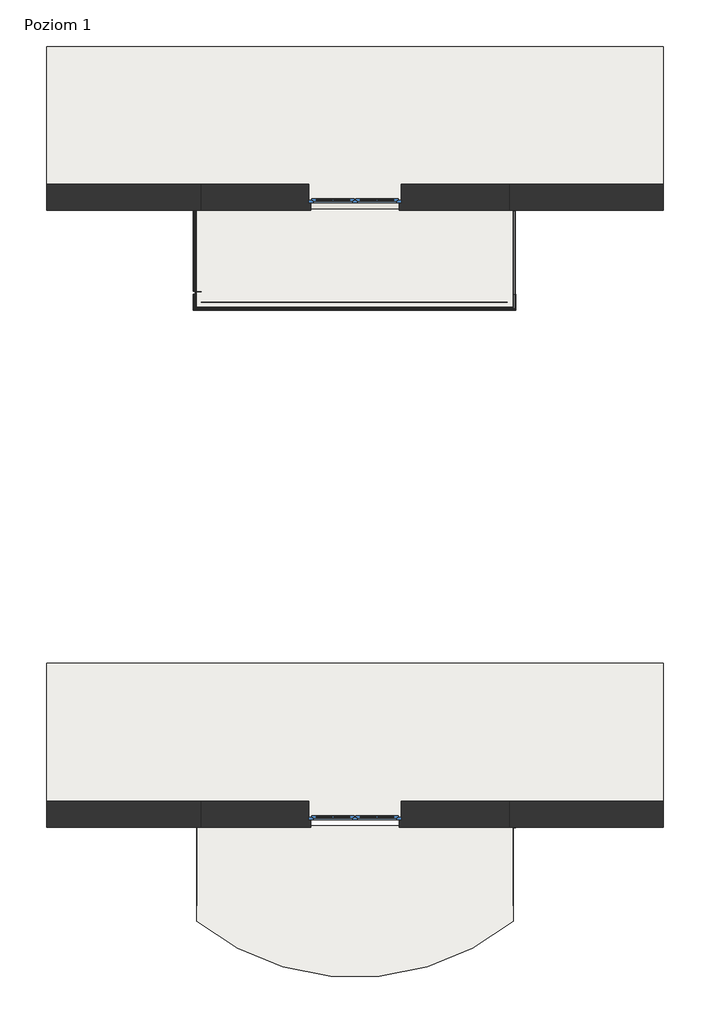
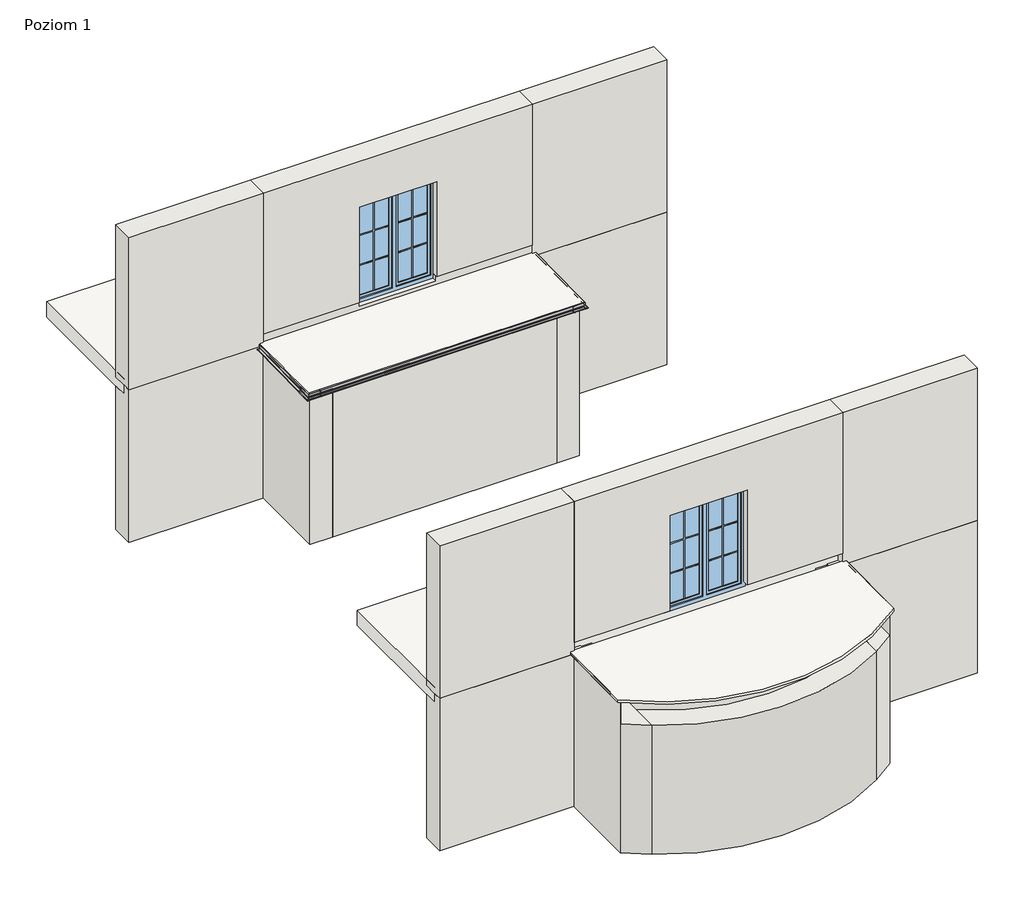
# One storey, part 1 of 4: 19 walls, 15 proxies, 4 slabs, 2 windows.
"""IFC4 building model written with IfcOpenShell, lengths in millimetres."""

from ifc_helpers import new_model, si_unit, point, frame, frame_2d, origin, place, context, project, spatial, polyline, circle_curve, ellipse_curve, trimmed, segment, composite_curve, outline, extrude, faceted_brep, transform, mapped, element, save
from ifc_brep_helpers import plane_surface, cylinder_surface, advanced_brep
from components import generic_models_8ea34007, generic_models_704fdf56, generic_models_deb29742, generic_models_228bb337, rynna_alu_r50_rynna_alu_r50_76c79ff7, rynna_alu_r50_rynna_alu_r50_4e946e94, rynna_alu_r50_rynna_alu_r50_be74cc9b, w35_59df81f5, w35_e51c26d3, w35_89e77db3, w35_c7dd2676, w35_d833f82c, w35_098470a9, window_150x200_12b14935

model = new_model("IFC4")

# Units and contexts
model_context = context("Model", 3, world=origin())
ifc_project = project(units=[si_unit("LENGTHUNIT", "METRE", prefix="MILLI")], contexts=[model_context])

# Site, building, storey
site = spatial("IfcSite", under=ifc_project)
building = spatial("IfcBuilding", under=site)
storey = spatial("IfcBuildingStorey", under=building, Name="Poziom 1", Elevation=0.0)

# Proxies
placement = place(None, origin())
generic_models_shape = generic_models_8ea34007(model_context)
element("IfcBuildingElementProxy", 1, Name="Odbojnik przyścienny rynny : Odbojnik przyścienny rynny", ObjectType="Odbojnik przyścienny rynny : Odbojnik przyścienny rynny", at=placement, inside=storey, context=model_context, shape_type="MappedRepresentation", body=[
    mapped(generic_models_shape, transform((-100550.4815287, 45258.8594514, -147.8273935), x_axis=(0.0, 0.9998161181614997, 0.019176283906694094), y_axis=(-1.0000000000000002, 0.0, 0.0), z_axis=(0.0, -0.01917628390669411, 0.9998161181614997))),
])
element("IfcBuildingElementProxy", 2, Name="Odbojnik przyścienny rynny : Odbojnik przyścienny rynny", ObjectType="Odbojnik przyścienny rynny : Odbojnik przyścienny rynny", at=placement, inside=storey, context=model_context, shape_type="MappedRepresentation", body=[
    mapped(generic_models_shape, transform((-100550.1150554, 35255.9720632, -147.6558285), x_axis=(0.0011898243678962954, 0.9999301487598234, 0.011759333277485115), y_axis=(-0.9999992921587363, 0.0011897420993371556, 1.3991551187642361e-05), z_axis=(0.0, -0.011759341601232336, 0.9999308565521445))),
])
generic_models_2_shape = generic_models_704fdf56(model_context)
element("IfcBuildingElementProxy", 3, Name="Odbojnik przyścienny rynny : Odbojnik przyścienny rynny", ObjectType="Odbojnik przyścienny rynny : Odbojnik przyścienny rynny", at=placement, inside=storey, context=model_context, shape_type="MappedRepresentation", body=[
    mapped(generic_models_2_shape, transform((-105778.4608602, 45248.5025712, -148.0260365), x_axis=(0.0, 0.9998161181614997, 0.019176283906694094), y_axis=(-1.0000000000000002, 0.0, 0.0), z_axis=(0.0, -0.01917628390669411, 0.9998161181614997))),
])
generic_models_3_shape = generic_models_deb29742(model_context)
element("IfcBuildingElementProxy", 4, Name="Odbojniki - OPW35 : Odbojniki - OPW35", ObjectType="Odbojniki - OPW35 : Odbojniki - OPW35", at=placement, inside=storey, context=model_context, shape_type="MappedRepresentation", body=[
    mapped(generic_models_3_shape, transform((-100588.8606794, 45254.1964754, -113.2994029), x_axis=(0.0, -0.9998161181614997, -0.019176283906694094), y_axis=(1.0000000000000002, 0.0, 0.0), z_axis=(0.0, -0.01917628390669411, 0.9998161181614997))),
])
generic_models_4_shape = generic_models_228bb337(model_context)
element("IfcBuildingElementProxy", 5, Name="Odbojniki - OPW35 : Odbojniki - OPW35", ObjectType="Odbojniki - OPW35 : Odbojniki - OPW35", at=placement, inside=storey, context=model_context, shape_type="MappedRepresentation", body=[
    mapped(generic_models_4_shape, transform((-105718.729554, 35251.5521138, -113.0943544), x_axis=(-0.00024381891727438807, -0.9999308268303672, -0.011759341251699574), y_axis=(0.9999999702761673, -0.0002438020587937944, -2.8671499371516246e-06), z_axis=(0.0, -0.011759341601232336, 0.9999308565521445))),
])
element("IfcBuildingElementProxy", 6, Name="Odbojniki - OPW35 : Odbojniki - OPW35", ObjectType="Odbojniki - OPW35 : Odbojniki - OPW35", at=placement, inside=storey, context=model_context, shape_type="MappedRepresentation", body=[
    mapped(generic_models_4_shape, transform((-105740.0817096, 45243.8395953, -113.4980459), x_axis=(0.0, -0.9998161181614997, -0.019176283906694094), y_axis=(1.0000000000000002, 0.0, 0.0), z_axis=(0.0, -0.01917628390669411, 0.9998161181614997))),
])
rynna_alu_r50_rynna_alu_r50_shape = rynna_alu_r50_rynna_alu_r50_76c79ff7(model_context)
element("IfcBuildingElementProxy", 7, Name="Rynna ALU R50 : Rynna ALU R50", ObjectType="Rynna ALU R50 : Rynna ALU R50", at=placement, inside=storey, context=model_context, shape_type="MappedRepresentation", body=[
    mapped(rynna_alu_r50_rynna_alu_r50_shape, transform((-103163.8196871, 43695.2685485, -135.6789481), x_axis=(1.0, 0.0, 0.0), y_axis=(0.0, 0.9998161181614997, 0.01917628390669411), z_axis=(0.0, -0.01917628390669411, 0.9998161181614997))),
])
rynna_alu_r50_rynna_alu_r50_2_shape = rynna_alu_r50_rynna_alu_r50_4e946e94(model_context)
element("IfcBuildingElementProxy", 8, Name="Rynna ALU R50 : Rynna ALU R50", ObjectType="Rynna ALU R50 : Rynna ALU R50", at=placement, inside=storey, context=model_context, shape_type="MappedRepresentation", body=[
    mapped(rynna_alu_r50_rynna_alu_r50_2_shape, transform((-100606.0642979, 44578.9401591, -118.7302939), x_axis=(0.0, 0.9998161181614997, 0.019176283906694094), y_axis=(-1.0000000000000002, 0.0, 0.0), z_axis=(0.0, -0.01917628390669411, 0.9998161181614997))),
])
rynna_alu_r50_rynna_alu_r50_3_shape = rynna_alu_r50_rynna_alu_r50_be74cc9b(model_context)
element("IfcBuildingElementProxy", 9, Name="Rynna ALU R50 : Rynna ALU R50", ObjectType="Rynna ALU R50 : Rynna ALU R50", at=placement, inside=storey, context=model_context, shape_type="MappedRepresentation", body=[
    mapped(rynna_alu_r50_rynna_alu_r50_3_shape, transform((-105722.878091, 44596.6144168, -118.3913049), x_axis=(0.0, 0.9998161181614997, 0.019176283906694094), y_axis=(-1.0000000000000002, 0.0, 0.0), z_axis=(0.0, -0.01917628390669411, 0.9998161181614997))),
])
w35_shape = w35_59df81f5(model_context)
element("IfcBuildingElementProxy", 10, Name="W35 Profil okapowy prosty z rynną : W35", ObjectType="W35 Profil okapowy prosty z rynną : W35", at=placement, inside=storey, context=model_context, shape_type="MappedRepresentation", body=[
    mapped(w35_shape, transform((-105717.2365026, 43700.2483344, -92.9716012), x_axis=(1.0, 0.0, 0.0), y_axis=(0.0, 0.9998161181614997, 0.01917628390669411), z_axis=(0.0, -0.01917628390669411, 0.9998161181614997))),
])
w35_2_shape = w35_e51c26d3(model_context)
element("IfcBuildingElementProxy", 11, Name="W35 Profil okapowy prosty z rynną : W35", ObjectType="W35 Profil okapowy prosty z rynną : W35", at=placement, inside=storey, context=model_context, shape_type="MappedRepresentation", body=[
    mapped(w35_2_shape, transform((-100611.8621363, 43900.211558, -89.1363444), x_axis=(0.0, 0.9998161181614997, 0.019176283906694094), y_axis=(-1.0000000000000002, 0.0, 0.0), z_axis=(0.0, -0.01917628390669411, 0.9998161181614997))),
])
w35_3_shape = w35_89e77db3(model_context)
element("IfcBuildingElementProxy", 12, Name="W35 Profil okapowy prosty z rynną : W35", ObjectType="W35 Profil okapowy prosty z rynną : W35", at=placement, inside=storey, context=model_context, shape_type="MappedRepresentation", body=[
    mapped(w35_3_shape, transform((-105717.0802526, 43945.9169536, -88.2597236), x_axis=(0.0, 0.9998161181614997, 0.019176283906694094), y_axis=(-1.0000000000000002, 0.0, 0.0), z_axis=(0.0, -0.01917628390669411, 0.9998161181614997))),
])
w35_4_shape = w35_c7dd2676(model_context)
element("IfcBuildingElementProxy", 13, Name="W35 Profil okapowy prosty z rynną : W35", ObjectType="W35 Profil okapowy prosty z rynną : W35", at=placement, inside=storey, context=model_context, shape_type="MappedRepresentation", body=[
    mapped(w35_4_shape, transform((-100613.0027161, 33988.4824493, -77.8217687), x_axis=(0.0011898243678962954, 0.9999301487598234, 0.011759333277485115), y_axis=(-0.9999992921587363, 0.0011897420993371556, 1.3991551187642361e-05), z_axis=(0.0, -0.011759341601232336, 0.9999308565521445))),
])
w35_5_shape = w35_d833f82c(model_context)
element("IfcBuildingElementProxy", 14, Name="W35 Profil okapowy prosty z rynną : W35", ObjectType="W35 Profil okapowy prosty z rynną : W35", at=placement, inside=storey, context=model_context, shape_type="MappedRepresentation", body=[
    mapped(w35_5_shape, transform((-105696.0359557, 33988.3943411, -77.8228048), x_axis=(0.00024381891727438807, 0.9999308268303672, 0.011759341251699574), y_axis=(-0.9999999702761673, 0.0002438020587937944, 2.8671499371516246e-06), z_axis=(0.0, -0.011759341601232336, 0.9999308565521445))),
])
w35_6_shape = w35_098470a9(model_context)
element("IfcBuildingElementProxy", 15, Name="W35 Profil okapowy prosty z rynną : W35", ObjectType="W35 Profil okapowy prosty z rynną : W35", at=placement, inside=storey, context=model_context, shape_type="MappedRepresentation", body=[
    mapped(w35_6_shape, transform((-105717.0802526, 43900.2115548, -89.1361788), x_axis=(0.0, 0.9998161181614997, 0.019176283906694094), y_axis=(-1.0000000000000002, 0.0, 0.0), z_axis=(0.0, -0.01917628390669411, 0.9998161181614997))),
])

# Slabs
element("IfcSlab", 16, ObjectType="Taras - wykończenie - posadzka z płytek grubowarstwowych - podkładka P1 - hydroizolacja", at=placement, inside=storey, context=model_context, shape_type="SweptSolid", body=[
    extrude(outline(polyline([(43700.2483344, -145.9716012), (43700.2483344, -92.9716012), (45285.2483344, -62.5716012), (45285.2483344, -115.5716012), (43700.2483344, -145.9716012)])), frame((-105717.2365026, 0.0, 0.0), z_axis=(1.0, 0.0, 0.0), x_axis=(0.0, 1.0, 0.0)), (0.0, 0.0, 1.0), 5126.0),
])
element("IfcSlab", 17, ObjectType="Taras - wykończenie - posadzka z płytek grubowarstwowych - podkładka P1 - hydroizolacja", at=placement, inside=storey, context=model_context, shape_type="AdvancedBrep", body=[
    advanced_brep(
    [(-105717.2365026, 35285.2483344, -62.5716012), (-105717.2365026, 35285.2483344, -115.5716012), (-105717.2365026, 33739.5758506, -133.7489488), (-105717.2365026, 33739.5758506, -80.7489488), (-100591.2365026, 35285.2483344, -62.5716012), (-100591.2365026, 35285.2483344, -115.5716012), (-100591.2365026, 33739.5758506, -80.7489488), (-100591.2365026, 33739.5758506, -133.7489488)],
    [
        (0, 1),
        (1, 2),
        (2, 3),
        (3, 0),
        (0, 4),
        (4, 5),
        (5, 1),
        (4, 6),
        (6, 7),
        (7, 5),
        (3, 6, ellipse_curve(frame((-103154.2365026, 36885.7473336, -43.7494853), z_axis=(0.0, -0.011759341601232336, 0.9999308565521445), x_axis=(0.0, -0.9999308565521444, -0.011759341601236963)), 4058.2806035, 4058.0)),
        (7, 2, ellipse_curve(frame((-103154.2365026, 36885.7473336, -96.7494853), z_axis=(0.0, 0.011759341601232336, -0.9999308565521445), x_axis=(0.0, -0.9999308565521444, -0.011759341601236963)), 4058.2806035, 4058.0)),
    ],
    [
        plane_surface(frame((-105717.2365026, 32700.2483344, -145.9716012), z_axis=(-1.0, 0.0, 0.0), x_axis=(0.0, 0.0, 1.0))),
        plane_surface(frame((-105717.2365026, 35285.2483344, -145.9716012), z_axis=(0.0, 1.0, 0.0), x_axis=(0.0, 0.0, 1.0))),
        plane_surface(frame((-100591.2365026, 35285.2483344, -145.9716012), z_axis=(1.0, 0.0, 0.0), x_axis=(0.0, 0.0, 1.0))),
        plane_surface(frame((-103154.2365026, 33992.7483344, -77.7716012), z_axis=(0.0, -0.011759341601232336, 0.9999308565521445), x_axis=(0.0, 0.9999308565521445, 0.011759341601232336))),
        plane_surface(frame((-103154.2365026, 33992.7483344, -130.7716012), z_axis=(0.0, 0.011759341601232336, -0.9999308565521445), x_axis=(0.0, 0.9999308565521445, 0.011759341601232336))),
        cylinder_surface(frame((-103154.2365026, 36885.7473336, -450.7716012), z_axis=(0.0, 0.0, -1.0), x_axis=(1.0, 0.0, 0.0)), 4058.0),
    ],
    [
        (0, [[1, 2, 3, 4]]),
        (1, [[-1, 5, 6, 7]]),
        (2, [[-6, 8, 9, 10]]),
        (3, [[-5, -4, 11, -8]]),
        (4, [[-7, -10, 12, -2]]),
        (5, [[-3, -12, -9, -11]]),
    ],
),
])
element("IfcSlab", 18, ObjectType="Strop", at=placement, inside=storey, context=model_context, shape_type="Brep", body=[
    faceted_brep([(-98154.2365026, 45418.2483344, -300.0), (-100649.2365026, 45418.2483344, -300.0), (-101069.2365026, 45418.2483344, -300.0), (-105239.2365026, 45418.2483344, -300.0), (-108154.2365026, 45418.2483344, -300.0), (-108154.2365026, 45683.2483344, -300.0), (-108154.2365026, 47918.2483344, -300.0), (-98154.2365026, 47918.2483344, -300.0), (-98154.2365026, 45683.2483344, -300.0), (-98154.2365026, 45418.2483344, 0.0), (-98154.2365026, 47918.2483344, 0.0), (-108154.2365026, 47918.2483344, 0.0), (-108154.2365026, 45418.2483344, 0.0), (-105654.2365026, 45418.2483344, 0.0), (-103904.2365026, 45418.2483344, 0.0), (-102404.2365026, 45418.2483344, 0.0), (-100654.2365026, 45418.2483344, 0.0), (-98154.2365026, 45418.2483344, -125.0), (-108154.2365026, 45418.2483344, -125.0)], [[[0, 1, 2, 3, 4, 5, 6, 7, 8]], [[9, 10, 11, 12, 13, 14, 15, 16]], [[4, 3, 2, 1, 0, 17, 9, 16, 15, 14, 13, 12, 18]], [[6, 5, 4, 18, 12, 11]], [[7, 6, 11, 10]], [[0, 8, 7, 10, 9, 17]]]),
])
element("IfcSlab", 19, ObjectType="Strop", at=placement, inside=storey, context=model_context, shape_type="Brep", body=[
    faceted_brep([(-98154.2365026, 35418.2483344, -300.0), (-100649.2365026, 35418.2483344, -300.0), (-101069.2365026, 35418.2483344, -300.0), (-105239.2365026, 35418.2483344, -300.0), (-108154.2365026, 35418.2483344, -300.0), (-108154.2365026, 35683.2483344, -300.0), (-108154.2365026, 37918.2483344, -300.0), (-98154.2365026, 37918.2483344, -300.0), (-98154.2365026, 35683.2483344, -300.0), (-98154.2365026, 35418.2483344, 0.0), (-98154.2365026, 37918.2483344, 0.0), (-108154.2365026, 37918.2483344, 0.0), (-108154.2365026, 35418.2483344, 0.0), (-105654.2365026, 35418.2483344, 0.0), (-103904.2365026, 35418.2483344, 0.0), (-102404.2365026, 35418.2483344, 0.0), (-100654.2365026, 35418.2483344, 0.0), (-98154.2365026, 35418.2483344, -125.0), (-108154.2365026, 35418.2483344, -125.0)], [[[0, 1, 2, 3, 4, 5, 6, 7, 8]], [[9, 10, 11, 12, 13, 14, 15, 16]], [[4, 3, 2, 1, 0, 17, 9, 16, 15, 14, 13, 12, 18]], [[6, 5, 4, 18, 12, 11]], [[7, 6, 11, 10]], [[0, 8, 7, 10, 9, 17]]]),
])

# Walls
element("IfcWall", 20, ObjectType="Porotherm P+W 25 + o15 + t", at=placement, inside=storey, context=model_context, shape_type="Brep", body=[
    faceted_brep([(-108154.2365026, 45263.2483344, -3125.0), (-105659.2365026, 45263.2483344, -3125.0), (-105239.2365026, 45263.2483344, -3125.0), (-105239.2365026, 45263.2483344, -147.509132), (-105449.2365026, 45263.2483344, -147.509132), (-105449.2365026, 45263.2483344, -125.0), (-105654.2365026, 45263.2483344, -125.0), (-108154.2365026, 45263.2483344, -125.0), (-105239.2365026, 45683.2483344, -3125.0), (-108154.2365026, 45683.2483344, -3125.0), (-108154.2365026, 45683.2483344, -300.0), (-105239.2365026, 45683.2483344, -300.0), (-105239.2365026, 45403.2483344, -3125.0), (-105449.2365026, 45403.2483344, -125.0), (-105449.2365026, 45418.2483344, -125.0), (-108154.2365026, 45418.2483344, -125.0), (-108154.2365026, 45418.2483344, -300.0), (-105239.2365026, 45418.2483344, -300.0), (-105449.2365026, 45418.2483344, -147.509132), (-105239.2365026, 45418.2483344, -147.509132), (-105449.2365026, 45403.2483344, -147.509132), (-105239.2365026, 45403.2483344, -147.509132)], [[[0, 1, 2, 3, 4, 5, 6, 7]], [[8, 9, 10, 11]], [[2, 1, 0, 9, 8, 12]], [[7, 6, 5, 13, 14, 15]], [[0, 7, 15, 16, 10, 9]], [[16, 17, 11, 10]], [[17, 16, 15, 14, 18, 19]], [[5, 4, 20, 18, 14, 13]], [[4, 3, 21, 19, 18, 20]], [[3, 2, 12, 8, 11, 17, 19, 21]]]),
])
element("IfcWall", 21, ObjectType="Porotherm P+W 25 + o15 + t", at=placement, inside=storey, context=model_context, shape_type="Brep", body=[
    faceted_brep([(-105659.2365026, 45263.2483344, -3125.0), (-105659.2365026, 43758.2483344, -3125.0), (-105659.2365026, 43758.2483344, -147.509132), (-105659.2365026, 45263.2483344, -147.509132), (-105239.2365026, 45263.2483344, -3125.0), (-105239.2365026, 45263.2483344, -147.509132), (-105239.2365026, 44178.2483344, -147.509132), (-105239.2365026, 43758.2483344, -147.509132), (-105239.2365026, 43758.2483344, -3125.0), (-105239.2365026, 44178.2483344, -3125.0), (-105449.2365026, 45263.2483344, -147.509132)], [[[0, 1, 2, 3]], [[4, 5, 6, 7, 8, 9]], [[1, 0, 4, 9, 8]], [[3, 2, 7, 6, 5, 10]], [[2, 1, 8, 7]], [[0, 3, 10, 5, 4]]]),
])
element("IfcWall", 22, ObjectType="Porotherm P+W 25 + o15 + t", at=placement, inside=storey, context=model_context, shape_type="SweptSolid", body=[
    extrude(outline(polyline([(-101069.2365026, 43758.2483344), (-105239.2365026, 43758.2483344), (-105239.2365026, 44178.2483344), (-101069.2365026, 44178.2483344), (-101069.2365026, 43758.2483344)])), frame((0.0, 0.0, -3125.0), z_axis=(0.0, 0.0, 1.0), x_axis=(1.0, 0.0, 0.0)), (0.0, 0.0, 1.0), 2977.490868),
])
element("IfcWall", 23, ObjectType="Porotherm P+W 25 + o15 + t", at=placement, inside=storey, context=model_context, shape_type="Brep", body=[
    faceted_brep([(-100649.2365026, 43758.2483344, -3125.0), (-100649.2365026, 45263.2483344, -3125.0), (-100649.2365026, 45683.2483344, -3125.0), (-100649.2365026, 45683.2483344, -300.0), (-100649.2365026, 45683.2483344, -147.509132), (-100649.2365026, 45418.2483344, -147.509132), (-100649.2365026, 45263.2483344, -147.509132), (-100649.2365026, 43758.2483344, -147.509132), (-101069.2365026, 43758.2483344, -3125.0), (-101069.2365026, 43758.2483344, -147.509132), (-101069.2365026, 44178.2483344, -147.509132), (-101069.2365026, 45403.2483344, -147.509132), (-101069.2365026, 45418.2483344, -147.509132), (-101069.2365026, 45683.2483344, -147.509132), (-101069.2365026, 45683.2483344, -300.0), (-101069.2365026, 45683.2483344, -3125.0), (-101069.2365026, 45403.2483344, -3125.0), (-101069.2365026, 44178.2483344, -3125.0)], [[[0, 1, 2, 3, 4, 5, 6, 7]], [[8, 9, 10, 11, 12, 13, 14, 15, 16, 17]], [[2, 1, 0, 8, 17, 16, 15]], [[7, 6, 5, 4, 13, 12, 11, 10, 9]], [[0, 7, 9, 8]], [[4, 3, 2, 15, 14, 13]]]),
])
element("IfcWall", 24, ObjectType="Porotherm P+W 25 + o15 + t", at=placement, inside=storey, context=model_context, shape_type="Brep", body=[
    faceted_brep([(-100649.2365026, 45263.2483344, -3125.0), (-98154.2365026, 45263.2483344, -3125.0), (-98154.2365026, 45263.2483344, -125.0), (-100654.2365026, 45263.2483344, -125.0), (-100859.2365026, 45263.2483344, -125.0), (-100859.2365026, 45263.2483344, -147.509132), (-100649.2365026, 45263.2483344, -147.509132), (-98154.2365026, 45683.2483344, -3125.0), (-100649.2365026, 45683.2483344, -3125.0), (-100649.2365026, 45683.2483344, -300.0), (-98154.2365026, 45683.2483344, -300.0), (-98154.2365026, 45418.2483344, -300.0), (-98154.2365026, 45418.2483344, -125.0), (-100859.2365026, 45418.2483344, -125.0), (-100859.2365026, 45403.2483344, -125.0), (-100649.2365026, 45418.2483344, -300.0), (-100649.2365026, 45418.2483344, -147.509132), (-100859.2365026, 45418.2483344, -147.509132), (-100859.2365026, 45403.2483344, -147.509132)], [[[0, 1, 2, 3, 4, 5, 6]], [[7, 8, 9, 10]], [[1, 0, 8, 7]], [[2, 1, 7, 10, 11, 12]], [[4, 3, 2, 12, 13, 14]], [[15, 11, 10, 9]], [[11, 15, 16, 17, 13, 12]], [[5, 4, 14, 13, 17, 18]], [[6, 5, 18, 17, 16]], [[0, 6, 16, 15, 9, 8]]]),
])
element("IfcWall", 25, ObjectType="Porotherm P+W 25(wieniec 45) + t", at=placement, inside=storey, context=model_context, shape_type="Brep", body=[
    faceted_brep([(-105239.2365026, 45403.2483344, -3125.0), (-101069.2365026, 45403.2483344, -3125.0), (-101069.2365026, 45403.2483344, -147.509132), (-100859.2365026, 45403.2483344, -147.509132), (-100859.2365026, 45403.2483344, -125.0), (-105449.2365026, 45403.2483344, -125.0), (-105449.2365026, 45403.2483344, -147.509132), (-105239.2365026, 45403.2483344, -147.509132), (-101069.2365026, 45683.2483344, -3125.0), (-105239.2365026, 45683.2483344, -3125.0), (-105239.2365026, 45683.2483344, -300.0), (-101069.2365026, 45683.2483344, -300.0), (-100859.2365026, 45418.2483344, -125.0), (-105449.2365026, 45418.2483344, -125.0), (-105239.2365026, 45418.2483344, -300.0), (-101069.2365026, 45418.2483344, -300.0), (-105239.2365026, 45418.2483344, -147.509132), (-105449.2365026, 45418.2483344, -147.509132), (-100859.2365026, 45418.2483344, -147.509132), (-101069.2365026, 45418.2483344, -147.509132)], [[[0, 1, 2, 3, 4, 5, 6, 7]], [[8, 9, 10, 11]], [[1, 0, 9, 8]], [[5, 4, 12, 13]], [[14, 15, 11, 10]], [[15, 14, 16, 17, 13, 12, 18, 19]], [[6, 5, 13, 17]], [[7, 6, 17, 16]], [[0, 7, 16, 14, 10, 9]], [[4, 3, 18, 12]], [[3, 2, 19, 18]], [[2, 1, 8, 11, 15, 19]]]),
])
element("IfcWall", 26, ObjectType="Porotherm P+W 25 + o15 + t", at=placement, inside=storey, context=model_context, shape_type="Brep", body=[
    faceted_brep([(-108154.2365026, 45263.2483344, -125.0), (-105654.2365026, 45263.2483344, -125.0), (-105654.2365026, 45263.2483344, 100.0), (-105654.2365026, 45263.2483344, 2875.0), (-108154.2365026, 45263.2483344, 2875.0), (-108154.2365026, 45683.2483344, -125.0), (-108154.2365026, 45683.2483344, 2875.0), (-105654.2365026, 45683.2483344, 2875.0), (-105654.2365026, 45683.2483344, 100.0), (-105654.2365026, 45683.2483344, 0.0), (-105654.2365026, 45683.2483344, -125.0), (-108154.2365026, 45418.2483344, -125.0), (-105654.2365026, 45418.2483344, -125.0), (-105654.2365026, 45285.2483344, -125.0)], [[[0, 1, 2, 3, 4]], [[5, 6, 7, 8, 9, 10]], [[1, 0, 11, 5, 10, 12, 13]], [[4, 3, 7, 6]], [[0, 4, 6, 5, 11]], [[1, 13, 12, 10, 9, 8, 7, 3, 2]]]),
])
element("IfcWall", 27, ObjectType="Porotherm P+W 25 + o15 + t", at=placement, inside=storey, context=model_context, shape_type="Brep", body=[
    faceted_brep([(-100654.2365026, 45263.2483344, 2875.0), (-100654.2365026, 45263.2483344, 100.0), (-100654.2365026, 45263.2483344, -125.0), (-98154.2365026, 45263.2483344, -125.0), (-98154.2365026, 45263.2483344, 2875.0), (-100654.2365026, 45683.2483344, -125.0), (-100654.2365026, 45683.2483344, 0.0), (-100654.2365026, 45683.2483344, 100.0), (-100654.2365026, 45683.2483344, 2875.0), (-98154.2365026, 45683.2483344, 2875.0), (-98154.2365026, 45683.2483344, -125.0), (-100654.2365026, 45285.2483344, -125.0), (-100654.2365026, 45418.2483344, -125.0), (-98154.2365026, 45418.2483344, -125.0)], [[[0, 1, 2, 3, 4]], [[5, 6, 7, 8, 9, 10]], [[3, 2, 11, 12, 5, 10, 13]], [[4, 3, 13, 10, 9]], [[0, 4, 9, 8]], [[0, 8, 7, 6, 5, 12, 11, 2, 1]]]),
])
element("IfcWall", 28, ObjectType="Porotherm P+W 25 + o12 + pł ceramiczne", at=placement, inside=storey, context=model_context, shape_type="Brep", body=[
    faceted_brep([(-105654.2365026, 45285.2483344, -125.0), (-100654.2365026, 45285.2483344, -125.0), (-100654.2365026, 45285.2483344, 100.0), (-102434.2365026, 45285.2483344, 100.0), (-102434.2365026, 45285.2483344, 0.0), (-103874.2365026, 45285.2483344, 0.0), (-103874.2365026, 45285.2483344, 100.0), (-105654.2365026, 45285.2483344, 100.0), (-102404.2365026, 45683.2483344, 100.0), (-100654.2365026, 45683.2483344, 100.0), (-100654.2365026, 45683.2483344, 0.0), (-102404.2365026, 45683.2483344, 0.0), (-105654.2365026, 45683.2483344, 100.0), (-103904.2365026, 45683.2483344, 100.0), (-103904.2365026, 45683.2483344, 0.0), (-105654.2365026, 45683.2483344, 0.0), (-105654.2365026, 45418.2483344, -125.0), (-100654.2365026, 45418.2483344, -125.0), (-100654.2365026, 45418.2483344, 0.0), (-102404.2365026, 45383.2483344, 100.0), (-102434.2365026, 45383.2483344, 100.0), (-103874.2365026, 45383.2483344, 100.0), (-103904.2365026, 45383.2483344, 100.0), (-105654.2365026, 45418.2483344, 0.0), (-102404.2365026, 45418.2483344, 0.0), (-103904.2365026, 45418.2483344, 0.0), (-103904.2365026, 45383.2483344, 0.0), (-103874.2365026, 45383.2483344, 0.0), (-102434.2365026, 45383.2483344, 0.0), (-102404.2365026, 45383.2483344, 0.0)], [[[0, 1, 2, 3, 4, 5, 6, 7]], [[8, 9, 10, 11]], [[12, 13, 14, 15]], [[1, 0, 16, 17]], [[2, 1, 17, 18, 10, 9]], [[2, 9, 8, 19, 20, 3]], [[12, 7, 6, 21, 22, 13]], [[0, 7, 12, 15, 23, 16]], [[18, 24, 11, 10]], [[25, 23, 15, 14]], [[24, 18, 17, 16, 23, 25]], [[26, 27, 5, 4, 28, 29, 24, 25]], [[27, 26, 22, 21]], [[29, 28, 20, 19]], [[29, 19, 8, 11, 24]], [[22, 26, 25, 14, 13]], [[28, 4, 3, 20]], [[5, 27, 21, 6]]]),
])
element("IfcWall", 29, ObjectType="Porotherm P+W 25 + o15 + t", at=placement, inside=storey, context=model_context, shape_type="Brep", body=[
    faceted_brep([(-100654.2365026, 45263.2483344, 100.0), (-100654.2365026, 45263.2483344, 2875.0), (-105654.2365026, 45263.2483344, 2875.0), (-105654.2365026, 45263.2483344, 100.0), (-103874.2365026, 45263.2483344, 100.0), (-103874.2365026, 45263.2483344, 1970.0), (-102434.2365026, 45263.2483344, 1970.0), (-102434.2365026, 45263.2483344, 100.0), (-100654.2365026, 45683.2483344, 2875.0), (-100654.2365026, 45683.2483344, 100.0), (-102404.2365026, 45683.2483344, 100.0), (-102404.2365026, 45683.2483344, 2000.0), (-103904.2365026, 45683.2483344, 2000.0), (-103904.2365026, 45683.2483344, 100.0), (-105654.2365026, 45683.2483344, 100.0), (-105654.2365026, 45683.2483344, 2875.0), (-105654.2365026, 45285.2483344, 100.0), (-103904.2365026, 45383.2483344, 100.0), (-103874.2365026, 45383.2483344, 100.0), (-103874.2365026, 45285.2483344, 100.0), (-100654.2365026, 45285.2483344, 100.0), (-102434.2365026, 45285.2483344, 100.0), (-102434.2365026, 45383.2483344, 100.0), (-102404.2365026, 45383.2483344, 100.0), (-102404.2365026, 45383.2483344, 2000.0), (-102434.2365026, 45383.2483344, 1970.0), (-103904.2365026, 45383.2483344, 2000.0), (-103874.2365026, 45383.2483344, 1970.0)], [[[0, 1, 2, 3, 4, 5, 6, 7]], [[8, 9, 10, 11, 12, 13, 14, 15]], [[3, 16, 14, 13, 17, 18, 19, 4]], [[9, 20, 0, 7, 21, 22, 23, 10]], [[1, 0, 20, 9, 8]], [[2, 1, 8, 15]], [[3, 2, 15, 14, 16]], [[24, 11, 10, 23]], [[6, 25, 22, 21, 7]], [[26, 12, 11, 24]], [[26, 24, 23, 22, 25, 27, 18, 17]], [[12, 26, 17, 13]], [[27, 25, 6, 5]], [[27, 5, 4, 19, 18]]]),
])
element("IfcWall", 30, ObjectType="Porotherm P+W 25 + o15 + t", at=placement, inside=storey, context=model_context, shape_type="Brep", body=[
    faceted_brep([(-108154.2365026, 35263.2483344, -3125.0), (-105659.2365026, 35263.2483344, -3125.0), (-105239.2365026, 35263.2483344, -3125.0), (-105239.2365026, 35263.2483344, -590.0), (-105239.2365026, 35263.2483344, -147.509132), (-105449.2365026, 35263.2483344, -147.509132), (-105449.2365026, 35263.2483344, -125.0), (-105654.2365026, 35263.2483344, -125.0), (-108154.2365026, 35263.2483344, -125.0), (-105239.2365026, 35683.2483344, -3125.0), (-108154.2365026, 35683.2483344, -3125.0), (-108154.2365026, 35683.2483344, -300.0), (-105239.2365026, 35683.2483344, -300.0), (-105239.2365026, 35403.2483344, -3125.0), (-105449.2365026, 35418.2483344, -125.0), (-108154.2365026, 35418.2483344, -125.0), (-108154.2365026, 35418.2483344, -300.0), (-105239.2365026, 35418.2483344, -300.0), (-105449.2365026, 35418.2483344, -147.509132), (-105239.2365026, 35418.2483344, -147.509132)], [[[0, 1, 2, 3, 4, 5, 6, 7, 8]], [[9, 10, 11, 12]], [[2, 1, 0, 10, 9, 13]], [[8, 7, 6, 14, 15]], [[0, 8, 15, 16, 11, 10]], [[16, 17, 12, 11]], [[17, 16, 15, 14, 18, 19]], [[6, 5, 18, 14]], [[5, 4, 19, 18]], [[4, 3, 2, 13, 9, 12, 17, 19]]]),
])
element("IfcWall", 31, ObjectType="Porotherm P+W 25 + o15 + t", at=placement, inside=storey, context=model_context, shape_type="AdvancedBrep", body=[
    advanced_brep(
    [(-105659.2365026, 35263.2483344, -3125.0), (-105659.2365026, 33767.258116, -3125.0), (-105659.2365026, 33767.258116, -147.509132), (-105659.2365026, 35263.2483344, -147.509132), (-105239.2365026, 33472.1312157, -3125.0), (-105239.2365026, 33975.5626315, -3125.0), (-105239.2365026, 35263.2483344, -3125.0), (-105239.2365026, 35263.2483344, -590.0), (-105239.2365026, 33472.1312157, -590.0), (-105654.2365026, 33763.2483344, -147.509132), (-105654.2365026, 35263.2483344, -147.509132), (-105654.2365026, 35263.2483344, -590.0), (-105654.2365026, 33763.2483344, -590.0)],
    [
        (0, 1),
        (1, 2),
        (2, 3),
        (3, 0),
        (4, 5),
        (5, 6),
        (6, 7),
        (7, 8),
        (8, 4),
        (0, 6),
        (4, 1, circle_curve(frame((-103154.2365026, 36885.7473336, -3125.0), z_axis=(0.0, 0.0, -1.0), x_axis=(1.0, 0.0, 0.0)), 4000.0)),
        (2, 9, circle_curve(frame((-103154.2365026, 36885.7473336, -147.509132), z_axis=(0.0, 0.0, 1.0), x_axis=(1.0, 0.0, 0.0)), 4000.0)),
        (9, 10),
        (10, 3),
        (10, 11),
        (11, 7),
        (11, 12),
        (12, 8, circle_curve(frame((-103154.2365026, 36885.7473336, -590.0), z_axis=(0.0, 0.0, 1.0), x_axis=(1.0, 0.0, 0.0)), 4000.0)),
        (9, 12),
    ],
    [
        plane_surface(frame((-105659.2365026, 32910.9390121, -3125.0), z_axis=(-1.0, 0.0, 0.0), x_axis=(0.0, -1.0, 0.0))),
        plane_surface(frame((-105239.2365026, 32910.9390121, -3125.0), z_axis=(1.0, 0.0, 0.0), x_axis=(0.0, 1.0, 0.0))),
        plane_surface(frame((-105659.2365026, 35543.2483344, -3125.0), z_axis=(0.0, 0.0, -1.0), x_axis=(1.0, 0.0, 0.0))),
        plane_surface(frame((-105659.2365026, 33869.6115607, -147.509132), z_axis=(0.0, 0.0, 1.0), x_axis=(1.0, 0.0, 0.0))),
        plane_surface(frame((-96800.7025136, 35263.2483344, -3125.0), z_axis=(0.0, 1.0, 0.0), x_axis=(1.0, 0.0, 0.0))),
        plane_surface(frame((-105654.2365026, 35371.2483344, -590.0), z_axis=(0.0, 0.0, 1.0), x_axis=(0.0, 1.0, 0.0))),
        plane_surface(frame((-105654.2365026, 33721.6092565, -590.0), z_axis=(1.0, 0.0, 0.0), x_axis=(0.0, 0.0, 1.0))),
        cylinder_surface(frame((-103154.2365026, 36885.7473336, -3125.0), z_axis=(0.0, 0.0, 1.0), x_axis=(1.0, 0.0, 0.0)), 4000.0),
    ],
    [
        (0, [[1, 2, 3, 4]]),
        (1, [[5, 6, 7, 8, 9]]),
        (2, [[-1, 10, -6, -5, 11]]),
        (3, [[-3, 12, 13, 14]]),
        (4, [[-4, -14, 15, 16, -7, -10]]),
        (5, [[17, 18, -8, -16]]),
        (6, [[-17, -15, -13, 19]]),
        (7, [[-2, -11, -9, -18, -19, -12]]),
    ],
),
])
element("IfcWall", 32, ObjectType="Porotherm P+W 25 + o15 + t", at=placement, inside=storey, context=model_context, shape_type="AdvancedBrep", body=[
    advanced_brep(
    [(-100649.2365026, 33767.258116, -3125.0), (-100649.2365026, 35263.2483344, -3125.0), (-100649.2365026, 35683.2483344, -3125.0), (-100649.2365026, 35683.2483344, -300.0), (-100649.2365026, 35683.2483344, -147.509132), (-100649.2365026, 35418.2483344, -147.509132), (-100649.2365026, 35263.2483344, -147.509132), (-100649.2365026, 33767.258116, -147.509132), (-101069.2365026, 35683.2483344, -3125.0), (-101069.2365026, 35403.2483344, -3125.0), (-101069.2365026, 33975.5626315, -3125.0), (-101069.2365026, 33472.1312157, -3125.0), (-101069.2365026, 33472.1312157, -590.0), (-101069.2365026, 33975.5626315, -590.0), (-101069.2365026, 35403.2483344, -590.0), (-101069.2365026, 35418.2483344, -590.0), (-101069.2365026, 35418.2483344, -300.0), (-101069.2365026, 35418.2483344, -147.509132), (-101069.2365026, 35683.2483344, -147.509132), (-101069.2365026, 35683.2483344, -300.0), (-100654.2365026, 35418.2483344, -147.509132), (-100654.2365026, 33763.2483344, -147.509132), (-100654.2365026, 33763.2483344, -590.0), (-100654.2365026, 35418.2483344, -590.0)],
    [
        (0, 1),
        (1, 2),
        (2, 3),
        (3, 4),
        (4, 5),
        (5, 6),
        (6, 7),
        (7, 0),
        (8, 9),
        (9, 10),
        (10, 11),
        (11, 12),
        (12, 13),
        (13, 14),
        (14, 15),
        (15, 16),
        (16, 17),
        (17, 18),
        (18, 19),
        (19, 8),
        (0, 11, circle_curve(frame((-103154.2365026, 36885.7473336, -3125.0), z_axis=(0.0, 0.0, -1.0), x_axis=(1.0, 0.0, 0.0)), 4000.0)),
        (8, 2),
        (4, 18),
        (17, 20),
        (20, 21),
        (21, 7, circle_curve(frame((-103154.2365026, 36885.7473336, -147.509132), z_axis=(0.0, 0.0, 1.0), x_axis=(1.0, 0.0, 0.0)), 4000.0)),
        (22, 23),
        (23, 15),
        (12, 22, circle_curve(frame((-103154.2365026, 36885.7473336, -590.0), z_axis=(0.0, 0.0, 1.0), x_axis=(1.0, 0.0, 0.0)), 4000.0)),
        (23, 20),
        (22, 21),
    ],
    [
        plane_surface(frame((-100649.2365026, 31010.9390121, -3125.0), z_axis=(1.0, 0.0, 0.0), x_axis=(0.0, 1.0, 0.0))),
        plane_surface(frame((-101069.2365026, 31010.9390121, -3125.0), z_axis=(-1.0, 0.0, 0.0), x_axis=(0.0, -1.0, 0.0))),
        plane_surface(frame((-100649.2365026, 33869.6115607, -3125.0), z_axis=(0.0, 0.0, -1.0), x_axis=(-1.0, 0.0, 0.0))),
        plane_surface(frame((-100649.2365026, 35543.2483344, -147.509132), z_axis=(0.0, 0.0, 1.0), x_axis=(-1.0, 0.0, 0.0))),
        plane_surface(frame((-96955.7025136, 35683.2483344, -3125.0), z_axis=(0.0, 1.0, 0.0), x_axis=(-1.0, 0.0, 0.0))),
        plane_surface(frame((-105654.2365026, 35371.2483344, -590.0), z_axis=(0.0, 0.0, 1.0), x_axis=(0.0, 1.0, 0.0))),
        plane_surface(frame((-105654.2365026, 35418.2483344, -590.0), z_axis=(0.0, -1.0, 0.0), x_axis=(0.0, 0.0, 1.0))),
        plane_surface(frame((-100654.2365026, 35418.2483344, -590.0), z_axis=(-1.0, 0.0, 0.0), x_axis=(0.0, 0.0, 1.0))),
        cylinder_surface(frame((-103154.2365026, 36885.7473336, -3125.0), z_axis=(0.0, 0.0, 1.0), x_axis=(1.0, 0.0, 0.0)), 4000.0),
    ],
    [
        (0, [[1, 2, 3, 4, 5, 6, 7, 8]]),
        (1, [[9, 10, 11, 12, 13, 14, 15, 16, 17, 18, 19, 20]]),
        (2, [[-2, -1, 21, -11, -10, -9, 22]]),
        (3, [[-7, -6, -5, 23, -18, 24, 25, 26]]),
        (4, [[-4, -3, -22, -20, -19, -23]]),
        (5, [[27, 28, -15, -14, -13, 29]]),
        (6, [[-28, 30, -24, -17, -16]]),
        (7, [[-27, 31, -25, -30]]),
        (8, [[-8, -26, -31, -29, -12, -21]]),
    ],
),
])
element("IfcWall", 33, ObjectType="Porotherm P+W 25 + o15 + t", at=placement, inside=storey, context=model_context, shape_type="Brep", body=[
    faceted_brep([(-100649.2365026, 35263.2483344, -3125.0), (-98154.2365026, 35263.2483344, -3125.0), (-98154.2365026, 35263.2483344, -125.0), (-100654.2365026, 35263.2483344, -125.0), (-100859.2365026, 35263.2483344, -125.0), (-100859.2365026, 35263.2483344, -147.509132), (-100649.2365026, 35263.2483344, -147.509132), (-98154.2365026, 35683.2483344, -3125.0), (-100649.2365026, 35683.2483344, -3125.0), (-100649.2365026, 35683.2483344, -300.0), (-98154.2365026, 35683.2483344, -300.0), (-98154.2365026, 35418.2483344, -300.0), (-98154.2365026, 35418.2483344, -125.0), (-100859.2365026, 35418.2483344, -125.0), (-100649.2365026, 35418.2483344, -300.0), (-100649.2365026, 35418.2483344, -147.509132), (-100859.2365026, 35418.2483344, -147.509132)], [[[0, 1, 2, 3, 4, 5, 6]], [[7, 8, 9, 10]], [[1, 0, 8, 7]], [[2, 1, 7, 10, 11, 12]], [[4, 3, 2, 12, 13]], [[14, 11, 10, 9]], [[11, 14, 15, 16, 13, 12]], [[5, 4, 13, 16]], [[6, 5, 16, 15]], [[0, 6, 15, 14, 9, 8]]]),
])
element("IfcWall", 34, ObjectType="Porotherm P+W 25(wieniec 45) + t", at=placement, inside=storey, context=model_context, shape_type="SweptSolid", body=[
    extrude(outline(polyline([(35683.2483344, -3125.0), (35403.2483344, -3125.0), (35403.2483344, -590.0), (35418.2483344, -590.0), (35418.2483344, -300.0), (35683.2483344, -300.0), (35683.2483344, -3125.0)])), frame((-105239.2365026, 0.0, 0.0), z_axis=(1.0, 0.0, 0.0), x_axis=(0.0, 1.0, 0.0)), (0.0, 0.0, 1.0), 4170.0),
])
element("IfcWall", 35, ObjectType="Porotherm P+W 25 + o15 + t", at=placement, inside=storey, context=model_context, shape_type="Brep", body=[
    faceted_brep([(-108154.2365026, 35263.2483344, -125.0), (-105654.2365026, 35263.2483344, -125.0), (-105654.2365026, 35263.2483344, 100.0), (-105654.2365026, 35263.2483344, 2875.0), (-108154.2365026, 35263.2483344, 2875.0), (-108154.2365026, 35683.2483344, -125.0), (-108154.2365026, 35683.2483344, 2875.0), (-105654.2365026, 35683.2483344, 2875.0), (-105654.2365026, 35683.2483344, 100.0), (-105654.2365026, 35683.2483344, 0.0), (-105654.2365026, 35683.2483344, -125.0), (-108154.2365026, 35418.2483344, -125.0)], [[[0, 1, 2, 3, 4]], [[5, 6, 7, 8, 9, 10]], [[1, 0, 11, 5, 10]], [[4, 3, 7, 6]], [[0, 4, 6, 5, 11]], [[1, 10, 9, 8, 7, 3, 2]]]),
])
element("IfcWall", 36, ObjectType="Porotherm P+W 25 + o15 + t", at=placement, inside=storey, context=model_context, shape_type="Brep", body=[
    faceted_brep([(-100654.2365026, 35263.2483344, 2875.0), (-100654.2365026, 35263.2483344, 100.0), (-100654.2365026, 35263.2483344, -125.0), (-98154.2365026, 35263.2483344, -125.0), (-98154.2365026, 35263.2483344, 2875.0), (-100654.2365026, 35683.2483344, -125.0), (-100654.2365026, 35683.2483344, 0.0), (-100654.2365026, 35683.2483344, 100.0), (-100654.2365026, 35683.2483344, 2875.0), (-98154.2365026, 35683.2483344, 2875.0), (-98154.2365026, 35683.2483344, -125.0), (-98154.2365026, 35418.2483344, -125.0)], [[[0, 1, 2, 3, 4]], [[5, 6, 7, 8, 9, 10]], [[3, 2, 5, 10, 11]], [[4, 3, 11, 10, 9]], [[0, 4, 9, 8]], [[0, 8, 7, 6, 5, 2, 1]]]),
])
element("IfcWall", 37, ObjectType="Porotherm P+W 25 + o15 + t", at=placement, inside=storey, context=model_context, shape_type="Brep", body=[
    faceted_brep([(-100654.2365026, 35263.2483344, 100.0), (-100654.2365026, 35263.2483344, 2875.0), (-105654.2365026, 35263.2483344, 2875.0), (-105654.2365026, 35263.2483344, 100.0), (-103874.2365026, 35263.2483344, 100.0), (-103874.2365026, 35263.2483344, 1970.0), (-102434.2365026, 35263.2483344, 1970.0), (-102434.2365026, 35263.2483344, 100.0), (-100654.2365026, 35683.2483344, 2875.0), (-100654.2365026, 35683.2483344, 100.0), (-102404.2365026, 35683.2483344, 100.0), (-102404.2365026, 35683.2483344, 2000.0), (-103904.2365026, 35683.2483344, 2000.0), (-103904.2365026, 35683.2483344, 100.0), (-105654.2365026, 35683.2483344, 100.0), (-105654.2365026, 35683.2483344, 2875.0), (-105654.2365026, 35285.2483344, 100.0), (-103904.2365026, 35383.2483344, 100.0), (-103874.2365026, 35383.2483344, 100.0), (-103874.2365026, 35285.2483344, 100.0), (-100654.2365026, 35285.2483344, 100.0), (-102434.2365026, 35285.2483344, 100.0), (-102434.2365026, 35383.2483344, 100.0), (-102404.2365026, 35383.2483344, 100.0), (-102404.2365026, 35383.2483344, 2000.0), (-102434.2365026, 35383.2483344, 1970.0), (-103904.2365026, 35383.2483344, 2000.0), (-103874.2365026, 35383.2483344, 1970.0)], [[[0, 1, 2, 3, 4, 5, 6, 7]], [[8, 9, 10, 11, 12, 13, 14, 15]], [[3, 16, 14, 13, 17, 18, 19, 4]], [[9, 20, 0, 7, 21, 22, 23, 10]], [[1, 0, 20, 9, 8]], [[2, 1, 8, 15]], [[3, 2, 15, 14, 16]], [[24, 11, 10, 23]], [[6, 25, 22, 21, 7]], [[26, 12, 11, 24]], [[26, 24, 23, 22, 25, 27, 18, 17]], [[12, 26, 17, 13]], [[27, 25, 6, 5]], [[27, 5, 4, 19, 18]]]),
])
element("IfcWall", 38, ObjectType="Porotherm P+W 25 + o15 + t", at=placement, inside=storey, context=model_context, shape_type="SweptSolid", body=[
    extrude(outline(composite_curve([segment(trimmed(circle_curve(frame_2d((-103154.2365026, 36885.7473336)), 4000.0), [point((-101069.2365026, 33472.1312157))], [point((-105239.2365026, 33472.1312157))], False, "CARTESIAN"), True, "CONTINUOUS"), segment(polyline([(-105239.2365026, 33472.1312157), (-105239.2365026, 33975.5626315)]), True, "CONTINUOUS"), segment(trimmed(circle_curve(frame_2d((-103154.2365026, 36885.7473336)), 3580.0), [point((-105239.2365026, 33975.5626315))], [point((-101069.2365026, 33975.5626315))], True, "CARTESIAN"), True, "CONTINUOUS"), segment(polyline([(-101069.2365026, 33975.5626315), (-101069.2365026, 33472.1312157)]), True, "CONTINUOUS")], self_intersect=False)), frame((0.0, 0.0, -3125.0), z_axis=(0.0, 0.0, 1.0), x_axis=(1.0, 0.0, 0.0)), (0.0, 0.0, 1.0), 2535.0),
])

# Windows
window_150x200_shape = window_150x200_12b14935(model_context)
element("IfcWindow", 39, ObjectType="OKNO_2X_W_SZ : 150x200", at=placement, inside=storey, context=model_context, shape_type="MappedRepresentation", body=[
    mapped(window_150x200_shape, transform((-103154.2365026, 45473.2483344, -850.0), x_axis=(-1.0, 0.0, 0.0), y_axis=(0.0, -1.0, 0.0), z_axis=(0.0, 0.0, 1.0))),
])
element("IfcWindow", 40, ObjectType="OKNO_2X_W_SZ : 150x200", at=placement, inside=storey, context=model_context, shape_type="MappedRepresentation", body=[
    mapped(window_150x200_shape, transform((-103154.2365026, 35473.2483344, -850.0), x_axis=(-1.0, 0.0, 0.0), y_axis=(0.0, -1.0, 0.0), z_axis=(0.0, 0.0, 1.0))),
])

save(model, "model.ifc")
